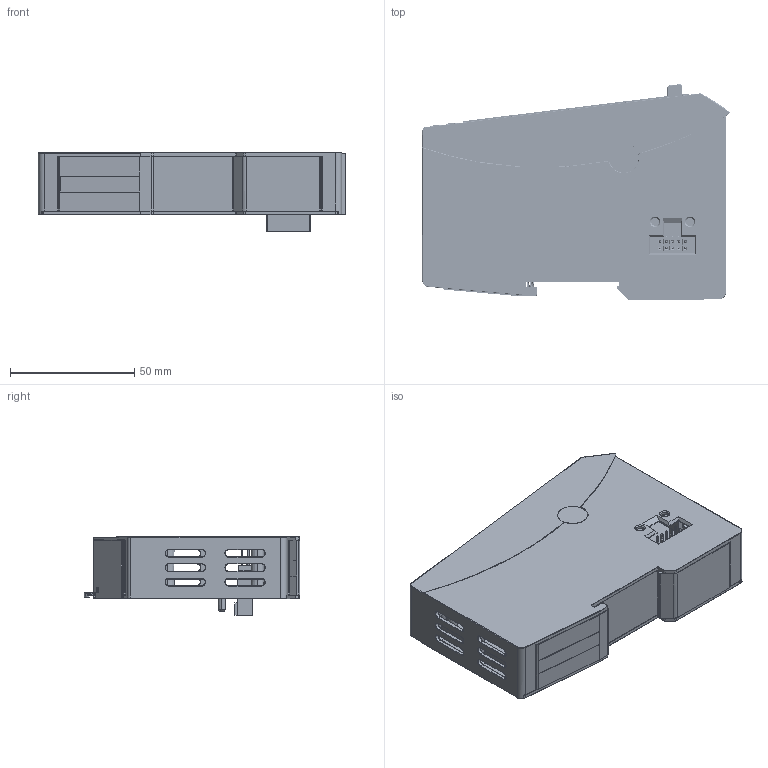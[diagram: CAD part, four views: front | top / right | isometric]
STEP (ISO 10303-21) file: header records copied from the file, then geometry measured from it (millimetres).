
FILE_DESCRIPTION (( 'STEP AP214' ), '1' );
FILE_NAME ('KEB-IO_SafetyIO.STEP', '2019-05-03T11:44:51', ( '' ), ( '' ), 'SwSTEP 2.0', 'SolidWorks 2016', '' );
FILE_SCHEMA (( 'AUTOMOTIVE_DESIGN' ));
Length unit declared in the file: millimetre
Products named in the file (1): KEB-IO_SafetyIO
Bounding box: 123.57 x 86.68 x 31.7 mm (x, y, z)
Surface area: 90458.9 mm2 (no closed solid volume)
Topology: 0 solids, 18 shells, 6158 faces, 17423 edges, 11283 vertices
Faces by surface type: plane 3558, cylinder 1941, bspline 441, cone 218
Full cylindrical faces by diameter (mm): 5.8 x1
Entity records: 234476 total; most frequent: CARTESIAN_POINT 88345, ORIENTED_EDGE 34285, DIRECTION 23928, EDGE_CURVE 17398, VERTEX_POINT 11283, VECTOR 9536, LINE 9536, AXIS2_PLACEMENT_3D 7196
